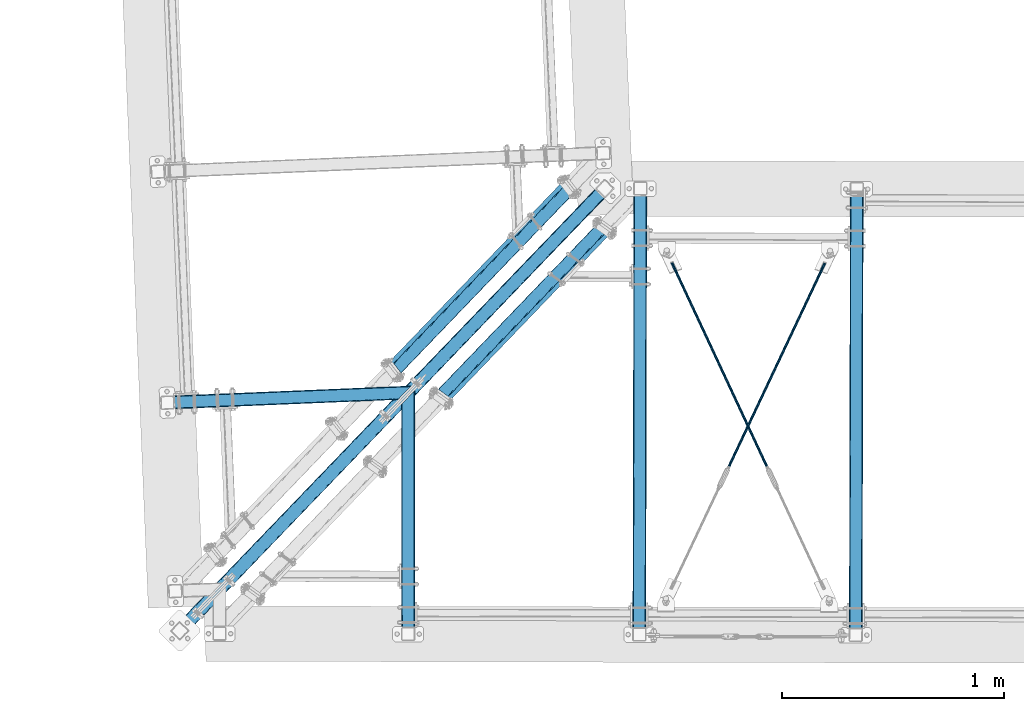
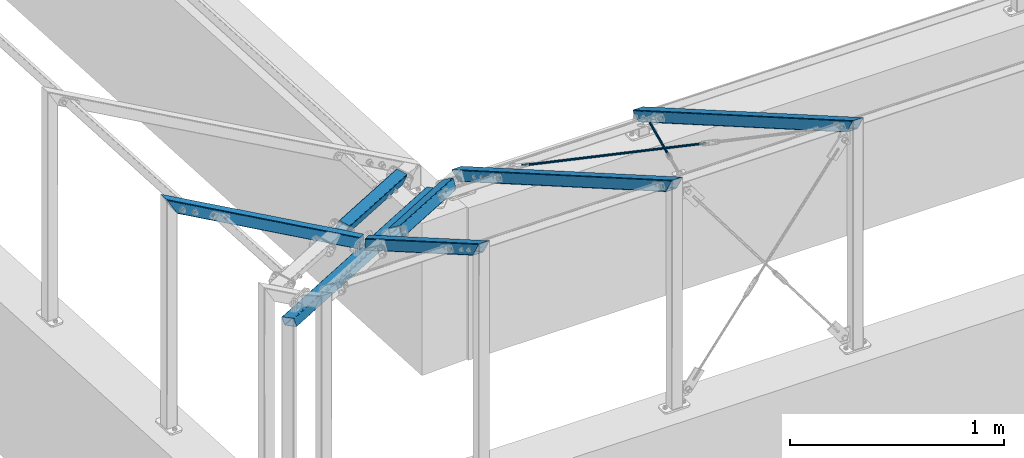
# One storey, part 10 of 288: 9 members, 56 openings.
"""IFC2X3 building model written with IfcOpenShell, lengths in millimetres."""

from ifc_helpers import new_model, entity, si_unit, converted_unit, frame, frame_2d, origin, origin_with_axes, origin_2d, origin_2d_with_axis, place, context, project, spatial, hollow_rectangle, circle, extrude, clip, halfspace, material, element, save


model = new_model("IFC2X3")

# Units and contexts
model_context = context("Model", 3, precision=1e-09, world=origin_with_axes())
ifc_project = project(units=[si_unit("LENGTHUNIT", "METRE", prefix="MILLI"), si_unit("AREAUNIT", "SQUARE_METRE"), si_unit("VOLUMEUNIT", "CUBIC_METRE"), converted_unit("PLANEANGLEUNIT", "DEGREE", entity("IfcPlaneAngleMeasure", 0.01745329), si_unit("PLANEANGLEUNIT", "RADIAN"), dimensions=[0, 0, 0, 0, 0, 0, 0])], contexts=[model_context])

# Site, building, storey
site_placement = place(None, origin_with_axes())
site = spatial("IfcSite", under=ifc_project, at=site_placement, Name="Remont ?wietlik?w nad MC w NCPP w Opolu", CompositionType="ELEMENT")
building_placement = place(site_placement, origin_with_axes())
building = spatial("IfcBuilding", under=site, at=building_placement, Name="Konstrukcja 1", CompositionType="ELEMENT")
storey_placement = place(building_placement, origin_with_axes())
storey = spatial("IfcBuildingStorey", under=building, at=storey_placement, Name="Default Storey", CompositionType="ELEMENT", Elevation=0.0)

# Member, openings
ifc_material_1 = material(Name="S235")
member_1_placement = place(None, frame((-236.729948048, 912.827571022, 1312.428468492), z_axis=(-0.865263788, -0.036088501, 0.500016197), x_axis=(-0.499581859, -0.020836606, -0.866016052)))
member_1 = element("IfcMember", 1, at=member_1_placement, inside=storey, material=ifc_material_1, Name="Horizontal_Beam", ObjectType="Horizontal_Beam", context=model_context, shape_type="Clipping", body=[
    clip(clip(extrude(hollow_rectangle(XDim=60.0, YDim=60.0, WallThickness=3.0, InnerFilletRadius=3.0, OuterFilletRadius=6.0, at=origin_2d()), origin(), (0.0, 0.0, -1.0), 1392.168412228), halfspace(frame((581.168314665, 921.899621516, -1091.490976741), z_axis=(-0.86603008, 0.0, -0.499991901), x_axis=(0.0, -1.0, 0.0)), True)), halfspace(frame((1041.8057755, 912.564403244, -820.389311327), z_axis=(0.345727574, -0.722440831, 0.598791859), x_axis=(0.361232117, 0.691432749, 0.625645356)), True)),
])
opening_1_placement = place(member_1_placement, frame((0.110116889, 30.500010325, -184.780501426), z_axis=(0.0, -1.0, -2.11e-07), x_axis=(1.9059e-05, -2.11e-07, 1.0)))
element("IfcOpeningElement", 2, at=opening_1_placement, cuts=member_1, ObjectType="Opening", context=model_context, shape_type="SweptSolid", body=[
    extrude(circle(Radius=9.001, at=frame_2d((40.0, 0.0), x_axis=(1.0, 0.0))), origin(), (0.0, 0.0, 1.0), 4.000020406),
])
opening_2_placement = place(member_1_placement, frame((0.110116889, 30.500010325, -184.780501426), z_axis=(0.0, -1.0, -2.11e-07), x_axis=(1.9059e-05, -2.11e-07, 1.0)))
element("IfcOpeningElement", 3, at=opening_2_placement, cuts=member_1, ObjectType="Opening", context=model_context, shape_type="SweptSolid", body=[
    extrude(circle(Radius=9.001, at=frame_2d((-40.0, 0.0), x_axis=(1.0, 0.0))), origin(), (0.0, 0.0, 1.0), 4.000020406),
])
opening_3_placement = place(member_1_placement, frame((0.110116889, -26.499989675, -184.780513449), z_axis=(0.0, -1.0, -2.11e-07), x_axis=(1.9059e-05, -2.11e-07, 1.0)))
element("IfcOpeningElement", 4, at=opening_3_placement, cuts=member_1, ObjectType="Opening", context=model_context, shape_type="SweptSolid", body=[
    extrude(circle(Radius=9.001, at=frame_2d((40.0, 0.0), x_axis=(1.0, 0.0))), origin(), (0.0, 0.0, 1.0), 4.000020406),
])
opening_4_placement = place(member_1_placement, frame((0.110116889, -26.499989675, -184.780513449), z_axis=(0.0, -1.0, -2.11e-07), x_axis=(1.9059e-05, -2.11e-07, 1.0)))
element("IfcOpeningElement", 5, at=opening_4_placement, cuts=member_1, ObjectType="Opening", context=model_context, shape_type="SweptSolid", body=[
    extrude(circle(Radius=9.001, at=frame_2d((-40.0, 0.0), x_axis=(1.0, 0.0))), origin(), (0.0, 0.0, 1.0), 4.000020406),
])
opening_5_placement = place(member_1_placement, frame((0.108460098, 26.499983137, -353.78153506), z_axis=(0.0, -1.0, -2.11e-07), x_axis=(1.0, 0.0, 0.0)))
element("IfcOpeningElement", 6, at=opening_5_placement, cuts=member_1, ObjectType="Opening", context=model_context, shape_type="SweptSolid", body=[
    extrude(circle(Radius=9.001, at=frame_2d((0.000171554, 9.000999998), x_axis=(1.0, 0.0))), origin(), (0.0, 0.0, -1.0), 4.000020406),
])
opening_6_placement = place(member_1_placement, frame((0.10693534, 26.500000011, -433.781535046), z_axis=(0.0, -1.0, -2.11e-07), x_axis=(1.0, 0.0, 0.0)))
element("IfcOpeningElement", 7, at=opening_6_placement, cuts=member_1, ObjectType="Opening", context=model_context, shape_type="SweptSolid", body=[
    extrude(circle(Radius=9.001, at=frame_2d((0.000171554, 9.000999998), x_axis=(1.0, 0.0))), origin(), (0.0, 0.0, -1.0), 4.000020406),
])
opening_7_placement = place(member_1_placement, frame((0.108460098, -30.500016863, -353.781547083), z_axis=(0.0, -1.0, -2.11e-07), x_axis=(1.0, 0.0, 0.0)))
element("IfcOpeningElement", 8, at=opening_7_placement, cuts=member_1, ObjectType="Opening", context=model_context, shape_type="SweptSolid", body=[
    extrude(circle(Radius=9.001, at=frame_2d((0.000171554, 9.000999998), x_axis=(1.0, 0.0))), origin(), (0.0, 0.0, -1.0), 4.000020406),
])
opening_8_placement = place(member_1_placement, frame((0.10693534, -30.499999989, -433.781547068), z_axis=(0.0, -1.0, -2.11e-07), x_axis=(1.0, 0.0, 0.0)))
element("IfcOpeningElement", 9, at=opening_8_placement, cuts=member_1, ObjectType="Opening", context=model_context, shape_type="SweptSolid", body=[
    extrude(circle(Radius=9.001, at=frame_2d((0.000171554, 9.000999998), x_axis=(1.0, 0.0))), origin(), (0.0, 0.0, -1.0), 4.000020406),
])

member_2_placement = place(None, frame((2938.290988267, -205.10931584, 1312.426370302), z_axis=(-0.001959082, -0.866023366, 0.499999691), x_axis=(-0.001130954, -0.499998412, -0.866025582)))
member_2 = element("IfcMember", 10, at=member_2_placement, inside=storey, material=ifc_material_1, Name="Horizontal_Beam", ObjectType="Horizontal_Beam", context=model_context, shape_type="Clipping", body=[
    clip(clip(extrude(hollow_rectangle(XDim=60.0, YDim=60.0, WallThickness=3.0, InnerFilletRadius=3.0, OuterFilletRadius=6.0, at=origin_2d()), origin(), (0.0, 0.0, -1.0), 2454.508604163), halfspace(frame((1461.070530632, -2938.747636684, -1561.967423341), z_axis=(-0.500000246, 0.0, 0.866025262), x_axis=(1.22e-07, 1.0, 0.0)), True)), halfspace(frame((581.169304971, -2938.747529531, -1091.469844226), z_axis=(-0.866025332, 1.05e-07, -0.500000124), x_axis=(-1.22e-07, -1.0, 0.0)), True)),
])
opening_9_placement = place(member_2_placement, frame((-0.000146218, 26.5, -151.894821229), z_axis=(0.0, -1.0, 0.0), x_axis=(1.0, 0.0, 0.0)))
element("IfcOpeningElement", 11, at=opening_9_placement, cuts=member_2, ObjectType="Opening", context=model_context, shape_type="SweptSolid", body=[
    extrude(circle(Radius=7.001, at=frame_2d((0.0, 7.001), x_axis=(1.0, 0.0))), origin(), (0.0, 0.0, -1.0), 4.0),
])
opening_10_placement = place(member_2_placement, frame((-0.000146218, 26.5, -231.894821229), z_axis=(0.0, -1.0, 0.0), x_axis=(1.0, 0.0, 0.0)))
element("IfcOpeningElement", 12, at=opening_10_placement, cuts=member_2, ObjectType="Opening", context=model_context, shape_type="SweptSolid", body=[
    extrude(circle(Radius=7.001, at=frame_2d((0.0, 7.001), x_axis=(1.0, 0.0))), origin(), (0.0, 0.0, -1.0), 4.0),
])
opening_11_placement = place(member_2_placement, frame((-0.000146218, -30.5, -151.894821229), z_axis=(0.0, -1.0, 0.0), x_axis=(1.0, 0.0, 0.0)))
element("IfcOpeningElement", 13, at=opening_11_placement, cuts=member_2, ObjectType="Opening", context=model_context, shape_type="SweptSolid", body=[
    extrude(circle(Radius=7.001, at=frame_2d((0.0, 7.001), x_axis=(1.0, 0.0))), origin(), (0.0, 0.0, -1.0), 4.0),
])
opening_12_placement = place(member_2_placement, frame((-0.000146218, -30.5, -231.894821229), z_axis=(0.0, -1.0, 0.0), x_axis=(1.0, 0.0, 0.0)))
element("IfcOpeningElement", 14, at=opening_12_placement, cuts=member_2, ObjectType="Opening", context=model_context, shape_type="SweptSolid", body=[
    extrude(circle(Radius=7.001, at=frame_2d((0.0, 7.001), x_axis=(1.0, 0.0))), origin(), (0.0, 0.0, -1.0), 4.0),
])
opening_13_placement = place(member_2_placement, frame((-0.000146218, 26.5, -2315.204967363), z_axis=(0.0, -1.0, 0.0), x_axis=(1.0, 0.0, 0.0)))
element("IfcOpeningElement", 15, at=opening_13_placement, cuts=member_2, ObjectType="Opening", context=model_context, shape_type="SweptSolid", body=[
    extrude(circle(Radius=7.001, at=frame_2d((0.0, 7.001), x_axis=(1.0, 0.0))), origin(), (0.0, 0.0, -1.0), 4.0),
])
opening_14_placement = place(member_2_placement, frame((-0.000146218, 26.5, -2395.204967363), z_axis=(0.0, -1.0, 0.0), x_axis=(1.0, 0.0, 0.0)))
element("IfcOpeningElement", 16, at=opening_14_placement, cuts=member_2, ObjectType="Opening", context=model_context, shape_type="SweptSolid", body=[
    extrude(circle(Radius=7.001, at=frame_2d((0.0, 7.001), x_axis=(1.0, 0.0))), origin(), (0.0, 0.0, -1.0), 4.0),
])
opening_15_placement = place(member_2_placement, frame((-0.000146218, -30.5, -2315.204967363), z_axis=(0.0, -1.0, 0.0), x_axis=(1.0, 0.0, 0.0)))
element("IfcOpeningElement", 17, at=opening_15_placement, cuts=member_2, ObjectType="Opening", context=model_context, shape_type="SweptSolid", body=[
    extrude(circle(Radius=7.001, at=frame_2d((0.0, 7.001), x_axis=(1.0, 0.0))), origin(), (0.0, 0.0, -1.0), 4.0),
])
opening_16_placement = place(member_2_placement, frame((-0.000146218, -30.5, -2395.204967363), z_axis=(0.0, -1.0, 0.0), x_axis=(1.0, 0.0, 0.0)))
element("IfcOpeningElement", 18, at=opening_16_placement, cuts=member_2, ObjectType="Opening", context=model_context, shape_type="SweptSolid", body=[
    extrude(circle(Radius=7.001, at=frame_2d((0.0, 7.001), x_axis=(1.0, 0.0))), origin(), (0.0, 0.0, -1.0), 4.0),
])
opening_17_placement = place(member_2_placement, frame((-0.000146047, 26.5, -2115.252833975), z_axis=(0.0, -1.0, 0.0), x_axis=(1.0, 0.0, 0.0)))
element("IfcOpeningElement", 19, at=opening_17_placement, cuts=member_2, ObjectType="Opening", context=model_context, shape_type="SweptSolid", body=[
    extrude(circle(Radius=7.001, at=frame_2d((0.0, 7.001), x_axis=(1.0, 0.0))), origin(), (0.0, 0.0, -1.0), 4.0),
])
opening_18_placement = place(member_2_placement, frame((-0.000146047, 26.5, -2195.252833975), z_axis=(0.0, -1.0, 0.0), x_axis=(1.0, 0.0, 0.0)))
element("IfcOpeningElement", 20, at=opening_18_placement, cuts=member_2, ObjectType="Opening", context=model_context, shape_type="SweptSolid", body=[
    extrude(circle(Radius=7.001, at=frame_2d((0.0, 7.001), x_axis=(1.0, 0.0))), origin(), (0.0, 0.0, -1.0), 4.0),
])
opening_19_placement = place(member_2_placement, frame((-0.000146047, -30.5, -2115.252833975), z_axis=(0.0, -1.0, 0.0), x_axis=(1.0, 0.0, 0.0)))
element("IfcOpeningElement", 21, at=opening_19_placement, cuts=member_2, ObjectType="Opening", context=model_context, shape_type="SweptSolid", body=[
    extrude(circle(Radius=7.001, at=frame_2d((0.0, 7.001), x_axis=(1.0, 0.0))), origin(), (0.0, 0.0, -1.0), 4.0),
])
opening_20_placement = place(member_2_placement, frame((-0.000146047, -30.5, -2195.252833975), z_axis=(0.0, -1.0, 0.0), x_axis=(1.0, 0.0, 0.0)))
element("IfcOpeningElement", 22, at=opening_20_placement, cuts=member_2, ObjectType="Opening", context=model_context, shape_type="SweptSolid", body=[
    extrude(circle(Radius=7.001, at=frame_2d((0.0, 7.001), x_axis=(1.0, 0.0))), origin(), (0.0, 0.0, -1.0), 4.0),
])

member_3_placement = place(None, frame((921.615527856, -200.562713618, 1312.426372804), z_axis=(0.0, -0.866025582, 0.499999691), x_axis=(0.0, -0.499999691, -0.866025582)))
member_3 = element("IfcMember", 23, at=member_3_placement, inside=storey, material=ifc_material_1, Name="Horizontal_Beam", ObjectType="Horizontal_Beam", context=model_context, shape_type="Clipping", body=[
    clip(clip(extrude(hollow_rectangle(XDim=60.0, YDim=60.0, WallThickness=3.0, InnerFilletRadius=3.0, OuterFilletRadius=6.0, at=origin_2d()), origin(), (0.0, 0.0, -1.0), 1391.388840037), halfspace(frame((581.694813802, -921.615527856, -1092.379519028), z_axis=(-0.86602535, 0.0, -0.500000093), x_axis=(0.0, -1.0, 0.0)), True)), halfspace(frame((1040.845813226, -912.185502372, -822.0550507), z_axis=(0.346499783, 0.72093759, 0.600155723), x_axis=(-0.360468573, 0.692999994, -0.624350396)), True)),
])
opening_21_placement = place(member_3_placement, frame((0.034118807, 30.591172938, -384.895866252), z_axis=(-0.001130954, -0.999997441, -0.001959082), x_axis=(-1.108e-06, -0.001959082, 0.999998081)))
element("IfcOpeningElement", 24, at=opening_21_placement, cuts=member_3, ObjectType="Opening", context=model_context, shape_type="SweptSolid", body=[
    extrude(circle(Radius=7.001, at=frame_2d((40.0, 0.0), x_axis=(1.0, 0.0))), origin(), (0.0, 0.0, 1.0), 4.028653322),
])
opening_22_placement = place(member_3_placement, frame((0.034118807, 30.591172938, -384.895866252), z_axis=(-0.001130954, -0.999997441, -0.001959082), x_axis=(-1.108e-06, -0.001959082, 0.999998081)))
element("IfcOpeningElement", 25, at=opening_22_placement, cuts=member_3, ObjectType="Opening", context=model_context, shape_type="SweptSolid", body=[
    extrude(circle(Radius=7.001, at=frame_2d((-40.0, 0.0), x_axis=(1.0, 0.0))), origin(), (0.0, 0.0, 1.0), 4.028653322),
])
opening_23_placement = place(member_3_placement, frame((0.034118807, 30.591172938, -384.895866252), z_axis=(-0.001130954, -0.999997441, -0.001959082), x_axis=(-1.108e-06, -0.001959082, 0.999998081)))
element("IfcOpeningElement", 26, at=opening_23_placement, cuts=member_3, ObjectType="Opening", context=model_context, shape_type="SweptSolid", body=[
    extrude(circle(Radius=7.001, at=frame_2d((40.0, 0.0), x_axis=(1.0, 0.0))), origin(), (0.0, 0.0, 1.0), 4.185380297),
])
opening_24_placement = place(member_3_placement, frame((0.034118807, 30.591172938, -384.895866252), z_axis=(-0.001130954, -0.999997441, -0.001959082), x_axis=(-1.108e-06, -0.001959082, 0.999998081)))
element("IfcOpeningElement", 27, at=opening_24_placement, cuts=member_3, ObjectType="Opening", context=model_context, shape_type="SweptSolid", body=[
    extrude(circle(Radius=7.001, at=frame_2d((-40.0, 0.0), x_axis=(1.0, 0.0))), origin(), (0.0, 0.0, 1.0), 4.185380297),
])
opening_25_placement = place(member_3_placement, frame((-0.030345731, -26.408827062, -385.007534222), z_axis=(-0.001130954, -0.999997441, -0.001959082), x_axis=(-1.108e-06, -0.001959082, 0.999998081)))
element("IfcOpeningElement", 28, at=opening_25_placement, cuts=member_3, ObjectType="Opening", context=model_context, shape_type="SweptSolid", body=[
    extrude(circle(Radius=7.001, at=frame_2d((40.0, 0.0), x_axis=(1.0, 0.0))), origin(), (0.0, 0.0, 1.0), 4.028653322),
])
opening_26_placement = place(member_3_placement, frame((-0.030345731, -26.408827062, -385.007534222), z_axis=(-0.001130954, -0.999997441, -0.001959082), x_axis=(-1.108e-06, -0.001959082, 0.999998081)))
element("IfcOpeningElement", 29, at=opening_26_placement, cuts=member_3, ObjectType="Opening", context=model_context, shape_type="SweptSolid", body=[
    extrude(circle(Radius=7.001, at=frame_2d((-40.0, 0.0), x_axis=(1.0, 0.0))), origin(), (0.0, 0.0, 1.0), 4.028653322),
])
opening_27_placement = place(member_3_placement, frame((-0.030345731, -26.408827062, -385.007534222), z_axis=(-0.001130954, -0.999997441, -0.001959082), x_axis=(-1.108e-06, -0.001959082, 0.999998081)))
element("IfcOpeningElement", 30, at=opening_27_placement, cuts=member_3, ObjectType="Opening", context=model_context, shape_type="SweptSolid", body=[
    extrude(circle(Radius=7.001, at=frame_2d((40.0, 0.0), x_axis=(1.0, 0.0))), origin(), (0.0, 0.0, 1.0), 4.185380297),
])
opening_28_placement = place(member_3_placement, frame((-0.030345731, -26.408827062, -385.007534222), z_axis=(-0.001130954, -0.999997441, -0.001959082), x_axis=(-1.108e-06, -0.001959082, 0.999998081)))
element("IfcOpeningElement", 31, at=opening_28_placement, cuts=member_3, ObjectType="Opening", context=model_context, shape_type="SweptSolid", body=[
    extrude(circle(Radius=7.001, at=frame_2d((-40.0, 0.0), x_axis=(1.0, 0.0))), origin(), (0.0, 0.0, 1.0), 4.185380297),
])
opening_29_placement = place(member_3_placement, frame((0.029573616, 26.34417931, -151.856872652), z_axis=(-0.001130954, -0.999997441, -0.001959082), x_axis=(0.99999936, -0.001130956, 0.0)))
element("IfcOpeningElement", 32, at=opening_29_placement, cuts=member_3, ObjectType="Opening", context=model_context, shape_type="SweptSolid", body=[
    extrude(circle(Radius=7.001, at=frame_2d((7.755e-06, 7.001), x_axis=(1.0, 0.0))), origin(), (0.0, 0.0, -1.0), 4.185380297),
])
opening_30_placement = place(member_3_placement, frame((0.029662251, 26.500905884, -231.856719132), z_axis=(-0.001130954, -0.999997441, -0.001959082), x_axis=(0.99999936, -0.001130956, 0.0)))
element("IfcOpeningElement", 33, at=opening_30_placement, cuts=member_3, ObjectType="Opening", context=model_context, shape_type="SweptSolid", body=[
    extrude(circle(Radius=7.001, at=frame_2d((7.755e-06, 7.001), x_axis=(1.0, 0.0))), origin(), (0.0, 0.0, -1.0), 4.185380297),
])
opening_31_placement = place(member_3_placement, frame((0.029573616, 26.34417931, -151.856872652), z_axis=(-0.001130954, -0.999997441, -0.001959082), x_axis=(0.99999936, -0.001130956, 0.0)))
element("IfcOpeningElement", 34, at=opening_31_placement, cuts=member_3, ObjectType="Opening", context=model_context, shape_type="SweptSolid", body=[
    extrude(circle(Radius=7.001, at=frame_2d((7.755e-06, 7.001), x_axis=(1.0, 0.0))), origin(), (0.0, 0.0, -1.0), 4.028653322),
])
opening_32_placement = place(member_3_placement, frame((0.029662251, 26.500905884, -231.856719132), z_axis=(-0.001130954, -0.999997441, -0.001959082), x_axis=(0.99999936, -0.001130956, 0.0)))
element("IfcOpeningElement", 35, at=opening_32_placement, cuts=member_3, ObjectType="Opening", context=model_context, shape_type="SweptSolid", body=[
    extrude(circle(Radius=7.001, at=frame_2d((7.755e-06, 7.001), x_axis=(1.0, 0.0))), origin(), (0.0, 0.0, -1.0), 4.028653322),
])
opening_33_placement = place(member_3_placement, frame((-0.034890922, -30.65582069, -151.968540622), z_axis=(-0.001130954, -0.999997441, -0.001959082), x_axis=(0.99999936, -0.001130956, 0.0)))
element("IfcOpeningElement", 36, at=opening_33_placement, cuts=member_3, ObjectType="Opening", context=model_context, shape_type="SweptSolid", body=[
    extrude(circle(Radius=7.001, at=frame_2d((7.755e-06, 7.001), x_axis=(1.0, 0.0))), origin(), (0.0, 0.0, -1.0), 4.185380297),
])
opening_34_placement = place(member_3_placement, frame((-0.034802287, -30.499094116, -231.968387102), z_axis=(-0.001130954, -0.999997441, -0.001959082), x_axis=(0.99999936, -0.001130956, 0.0)))
element("IfcOpeningElement", 37, at=opening_34_placement, cuts=member_3, ObjectType="Opening", context=model_context, shape_type="SweptSolid", body=[
    extrude(circle(Radius=7.001, at=frame_2d((7.755e-06, 7.001), x_axis=(1.0, 0.0))), origin(), (0.0, 0.0, -1.0), 4.185380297),
])
opening_35_placement = place(member_3_placement, frame((-0.034890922, -30.65582069, -151.968540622), z_axis=(-0.001130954, -0.999997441, -0.001959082), x_axis=(0.99999936, -0.001130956, 0.0)))
element("IfcOpeningElement", 38, at=opening_35_placement, cuts=member_3, ObjectType="Opening", context=model_context, shape_type="SweptSolid", body=[
    extrude(circle(Radius=7.001, at=frame_2d((7.755e-06, 7.001), x_axis=(1.0, 0.0))), origin(), (0.0, 0.0, -1.0), 4.028653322),
])
opening_36_placement = place(member_3_placement, frame((-0.034802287, -30.499094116, -231.968387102), z_axis=(-0.001130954, -0.999997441, -0.001959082), x_axis=(0.99999936, -0.001130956, 0.0)))
element("IfcOpeningElement", 39, at=opening_36_placement, cuts=member_3, ObjectType="Opening", context=model_context, shape_type="SweptSolid", body=[
    extrude(circle(Radius=7.001, at=frame_2d((7.755e-06, 7.001), x_axis=(1.0, 0.0))), origin(), (0.0, 0.0, -1.0), 4.028653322),
])

member_4_placement = place(None, frame((1962.923452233, -202.811043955, 1312.426370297), z_axis=(-0.001959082, -0.866023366, 0.499999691), x_axis=(-0.001130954, -0.499998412, -0.866025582)))
member_4 = element("IfcMember", 40, at=member_4_placement, inside=storey, material=ifc_material_1, Name="Horizontal_Beam", ObjectType="Horizontal_Beam", context=model_context, shape_type="Clipping", body=[
    clip(clip(extrude(hollow_rectangle(XDim=60.0, YDim=60.0, WallThickness=3.0, InnerFilletRadius=3.0, OuterFilletRadius=6.0, at=origin_2d()), origin(), (0.0, 0.0, -1.0), 2454.508604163), halfspace(frame((581.146464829, -1963.377290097, -1091.430078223), z_axis=(-0.866025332, 1.05e-07, -0.500000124), x_axis=(-1.22e-07, -1.0, 0.0)), True)), halfspace(frame((1461.139526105, -1963.37739726, -1561.927657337), z_axis=(-0.500000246, 0.0, 0.866025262), x_axis=(1.22e-07, 1.0, 0.0)), True)),
])
opening_37_placement = place(member_4_placement, frame((0.053524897, 30.5, -1948.1588494), z_axis=(0.0, -1.0, 0.0), x_axis=(0.0, 0.0, 1.0)))
element("IfcOpeningElement", 41, at=opening_37_placement, cuts=member_4, ObjectType="Opening", context=model_context, shape_type="SweptSolid", body=[
    extrude(circle(Radius=7.001, at=frame_2d((40.0, 0.0), x_axis=(1.0, 0.0))), origin(), (0.0, 0.0, 1.0), 4.0),
])
opening_38_placement = place(member_4_placement, frame((0.053524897, 30.5, -1948.1588494), z_axis=(0.0, -1.0, 0.0), x_axis=(0.0, 0.0, 1.0)))
element("IfcOpeningElement", 42, at=opening_38_placement, cuts=member_4, ObjectType="Opening", context=model_context, shape_type="SweptSolid", body=[
    extrude(circle(Radius=7.001, at=frame_2d((-40.0, 0.0), x_axis=(1.0, 0.0))), origin(), (0.0, 0.0, 1.0), 4.0),
])
opening_39_placement = place(member_4_placement, frame((0.053524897, -26.5, -1948.1588494), z_axis=(0.0, -1.0, 0.0), x_axis=(0.0, 0.0, 1.0)))
element("IfcOpeningElement", 43, at=opening_39_placement, cuts=member_4, ObjectType="Opening", context=model_context, shape_type="SweptSolid", body=[
    extrude(circle(Radius=7.001, at=frame_2d((40.0, 0.0), x_axis=(1.0, 0.0))), origin(), (0.0, 0.0, 1.0), 4.0),
])
opening_40_placement = place(member_4_placement, frame((0.053524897, -26.5, -1948.1588494), z_axis=(0.0, -1.0, 0.0), x_axis=(0.0, 0.0, 1.0)))
element("IfcOpeningElement", 44, at=opening_40_placement, cuts=member_4, ObjectType="Opening", context=model_context, shape_type="SweptSolid", body=[
    extrude(circle(Radius=7.001, at=frame_2d((-40.0, 0.0), x_axis=(1.0, 0.0))), origin(), (0.0, 0.0, 1.0), 4.0),
])
opening_41_placement = place(member_4_placement, frame((-0.000146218, 30.5, -184.814289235), z_axis=(0.0, -1.0, 0.0), x_axis=(0.0, 0.0, 1.0)))
element("IfcOpeningElement", 45, at=opening_41_placement, cuts=member_4, ObjectType="Opening", context=model_context, shape_type="SweptSolid", body=[
    extrude(circle(Radius=7.001, at=frame_2d((40.0, 0.0), x_axis=(1.0, 0.0))), origin(), (0.0, 0.0, 1.0), 4.0),
])
opening_42_placement = place(member_4_placement, frame((-0.000146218, 30.5, -184.814289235), z_axis=(0.0, -1.0, 0.0), x_axis=(0.0, 0.0, 1.0)))
element("IfcOpeningElement", 46, at=opening_42_placement, cuts=member_4, ObjectType="Opening", context=model_context, shape_type="SweptSolid", body=[
    extrude(circle(Radius=7.001, at=frame_2d((-40.0, 0.0), x_axis=(1.0, 0.0))), origin(), (0.0, 0.0, 1.0), 4.0),
])
opening_43_placement = place(member_4_placement, frame((-0.000146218, -26.5, -184.814289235), z_axis=(0.0, -1.0, 0.0), x_axis=(0.0, 0.0, 1.0)))
element("IfcOpeningElement", 47, at=opening_43_placement, cuts=member_4, ObjectType="Opening", context=model_context, shape_type="SweptSolid", body=[
    extrude(circle(Radius=7.001, at=frame_2d((40.0, 0.0), x_axis=(1.0, 0.0))), origin(), (0.0, 0.0, 1.0), 4.0),
])
opening_44_placement = place(member_4_placement, frame((-0.000146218, -26.5, -184.814289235), z_axis=(0.0, -1.0, 0.0), x_axis=(0.0, 0.0, 1.0)))
element("IfcOpeningElement", 48, at=opening_44_placement, cuts=member_4, ObjectType="Opening", context=model_context, shape_type="SweptSolid", body=[
    extrude(circle(Radius=7.001, at=frame_2d((-40.0, 0.0), x_axis=(1.0, 0.0))), origin(), (0.0, 0.0, 1.0), 4.0),
])
opening_45_placement = place(member_4_placement, frame((0.053524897, 30.5, -2148.1588494), z_axis=(0.0, -1.0, 0.0), x_axis=(0.0, 0.0, 1.0)))
element("IfcOpeningElement", 49, at=opening_45_placement, cuts=member_4, ObjectType="Opening", context=model_context, shape_type="SweptSolid", body=[
    extrude(circle(Radius=7.001, at=frame_2d((40.0, 0.0), x_axis=(1.0, 0.0))), origin(), (0.0, 0.0, 1.0), 4.0),
])
opening_46_placement = place(member_4_placement, frame((0.053524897, 30.5, -2148.1588494), z_axis=(0.0, -1.0, 0.0), x_axis=(0.0, 0.0, 1.0)))
element("IfcOpeningElement", 50, at=opening_46_placement, cuts=member_4, ObjectType="Opening", context=model_context, shape_type="SweptSolid", body=[
    extrude(circle(Radius=7.001, at=frame_2d((-40.0, 0.0), x_axis=(1.0, 0.0))), origin(), (0.0, 0.0, 1.0), 4.0),
])
opening_47_placement = place(member_4_placement, frame((0.053524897, -26.5, -2148.1588494), z_axis=(0.0, -1.0, 0.0), x_axis=(0.0, 0.0, 1.0)))
element("IfcOpeningElement", 51, at=opening_47_placement, cuts=member_4, ObjectType="Opening", context=model_context, shape_type="SweptSolid", body=[
    extrude(circle(Radius=7.001, at=frame_2d((40.0, 0.0), x_axis=(1.0, 0.0))), origin(), (0.0, 0.0, 1.0), 4.0),
])
opening_48_placement = place(member_4_placement, frame((0.053524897, -26.5, -2148.1588494), z_axis=(0.0, -1.0, 0.0), x_axis=(0.0, 0.0, 1.0)))
element("IfcOpeningElement", 52, at=opening_48_placement, cuts=member_4, ObjectType="Opening", context=model_context, shape_type="SweptSolid", body=[
    extrude(circle(Radius=7.001, at=frame_2d((-40.0, 0.0), x_axis=(1.0, 0.0))), origin(), (0.0, 0.0, 1.0), 4.0),
])

member_5_placement = place(None, frame((1024.30386837, 888.92362624, 683.411658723), z_axis=(-0.639790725, -0.665583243, 0.384274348), x_axis=(0.0, 0.499999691, 0.866025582)))
member_5 = element("IfcMember", 53, at=member_5_placement, inside=storey, material=ifc_material_1, Name="-", ObjectType="-", context=model_context, shape_type="Clipping", body=[
    clip(clip(extrude(hollow_rectangle(XDim=60.0, YDim=60.0, WallThickness=3.0, InnerFilletRadius=3.0, OuterFilletRadius=6.0, at=origin_2d()), origin(), (0.0, 0.0, -1.0), 1293.698233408), halfspace(frame((-1036.313518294, 513.317496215, -1208.770826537), z_axis=(0.0, 0.0, 1.0), x_axis=(-0.346499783, -0.938050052, 0.0)), True)), halfspace(frame((-1036.313518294, 513.317496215, -84.927406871), z_axis=(0.0, 0.0, -1.0), x_axis=(0.346499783, 0.938050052, 0.0)), True)),
])
opening_49_placement = place(member_5_placement, frame((-0.883151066, 30.5, -1014.676408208), z_axis=(0.0, -1.0, 0.0), x_axis=(-0.000720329, 0.0, -0.999999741)))
element("IfcOpeningElement", 54, at=opening_49_placement, cuts=member_5, ObjectType="Opening", context=model_context, shape_type="SweptSolid", body=[
    extrude(circle(Radius=7.001, at=origin_2d_with_axis()), origin(), (0.0, 0.0, 1.0), 4.0),
])
opening_50_placement = place(member_5_placement, frame((-0.883151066, -26.5, -1014.676408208), z_axis=(0.0, -1.0, 0.0), x_axis=(-0.000720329, 0.0, -0.999999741)))
element("IfcOpeningElement", 55, at=opening_50_placement, cuts=member_5, ObjectType="Opening", context=model_context, shape_type="SweptSolid", body=[
    extrude(circle(Radius=7.001, at=origin_2d_with_axis()), origin(), (0.0, 0.0, 1.0), 4.0),
])
opening_51_placement = place(member_5_placement, frame((-0.788095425, 30.5, -882.714954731), z_axis=(0.0, -1.0, 0.0), x_axis=(-0.000720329, 0.0, -0.999999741)))
element("IfcOpeningElement", 56, at=opening_51_placement, cuts=member_5, ObjectType="Opening", context=model_context, shape_type="SweptSolid", body=[
    extrude(circle(Radius=7.001, at=origin_2d_with_axis()), origin(), (0.0, 0.0, 1.0), 4.0),
])
opening_52_placement = place(member_5_placement, frame((-0.788095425, -26.5, -882.714954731), z_axis=(0.0, -1.0, 0.0), x_axis=(-0.000720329, 0.0, -0.999999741)))
element("IfcOpeningElement", 57, at=opening_52_placement, cuts=member_5, ObjectType="Opening", context=model_context, shape_type="SweptSolid", body=[
    extrude(circle(Radius=7.001, at=origin_2d_with_axis()), origin(), (0.0, 0.0, 1.0), 4.0),
])

member_6_placement = place(None, frame((1690.917415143, 1935.277097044, 175.819016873), z_axis=(0.639589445, 0.665373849, -0.384971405), x_axis=(0.499581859, 0.020836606, 0.866016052)))
member_6 = element("IfcMember", 58, at=member_6_placement, inside=storey, material=ifc_material_1, Name="Horizontal_Beam", ObjectType="Horizontal_Beam", context=model_context, shape_type="Clipping", body=[
    clip(clip(extrude(hollow_rectangle(XDim=60.0, YDim=60.0, WallThickness=3.0, InnerFilletRadius=3.0, OuterFilletRadius=6.0, at=origin_2d()), origin(), (0.0, 0.0, -1.0), 1386.564184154), halfspace(frame((-1037.338361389, 512.330457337, -1301.636777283), z_axis=(0.0, 0.0, 1.0), x_axis=(-0.345727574, -0.938334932, 0.0)), True)), halfspace(frame((-1037.338361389, 512.330457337, -84.927406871), z_axis=(0.0, 0.0, -1.0), x_axis=(0.345727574, 0.938334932, 0.0)), True)),
])
opening_53_placement = place(member_6_placement, frame((-3.135056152, 30.5, -439.140185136), z_axis=(0.0, -1.0, 0.0), x_axis=(-2.4755e-05, 0.0, -1.0)))
element("IfcOpeningElement", 59, at=opening_53_placement, cuts=member_6, ObjectType="Opening", context=model_context, shape_type="SweptSolid", body=[
    extrude(circle(Radius=7.001, at=origin_2d_with_axis()), origin(), (0.0, 0.0, 1.0), 4.0),
])
opening_54_placement = place(member_6_placement, frame((-3.135056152, -26.5, -439.140185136), z_axis=(0.0, -1.0, 0.0), x_axis=(-2.4755e-05, 0.0, -1.0)))
element("IfcOpeningElement", 60, at=opening_54_placement, cuts=member_6, ObjectType="Opening", context=model_context, shape_type="SweptSolid", body=[
    extrude(circle(Radius=7.001, at=origin_2d_with_axis()), origin(), (0.0, 0.0, 1.0), 4.0),
])
opening_55_placement = place(member_6_placement, frame((-3.131684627, 30.5, -307.186399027), z_axis=(0.0, -1.0, 0.0), x_axis=(-2.4755e-05, 0.0, -1.0)))
element("IfcOpeningElement", 61, at=opening_55_placement, cuts=member_6, ObjectType="Opening", context=model_context, shape_type="SweptSolid", body=[
    extrude(circle(Radius=7.001, at=origin_2d_with_axis()), origin(), (0.0, 0.0, 1.0), 4.0),
])
opening_56_placement = place(member_6_placement, frame((-3.131684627, -26.5, -307.186399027), z_axis=(0.0, -1.0, 0.0), x_axis=(-2.4755e-05, 0.0, -1.0)))
element("IfcOpeningElement", 62, at=opening_56_placement, cuts=member_6, ObjectType="Opening", context=model_context, shape_type="SweptSolid", body=[
    extrude(circle(Radius=7.001, at=origin_2d_with_axis()), origin(), (0.0, 0.0, 1.0), 4.0),
])

# Members
ifc_material_2 = material(Name="S275J2")
member_7_placement = place(None, frame((2338.932519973, 568.652176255, 875.714183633), z_axis=(-0.378100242, -0.801523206, 0.46325021), x_axis=(0.001127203, 0.499998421, 0.866025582)))
element("IfcMember", 63, at=member_7_placement, inside=storey, material=ifc_material_2, Name="Tension_Rod#2", ObjectType="Tension_Rod#2", context=model_context, shape_type="Clipping", body=[
    clip(clip(extrude(circle(Radius=6.0, at=origin_2d()), origin(), (0.0, 0.0, -1.0), 1347.850591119), halfspace(frame((-1045.352527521, 2143.562671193, -33.486281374), z_axis=(0.0, 0.0, -1.0), x_axis=(0.212299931, 0.977204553, 0.0)), True)), halfspace(frame((-1045.352527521, 2143.562671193, -1219.364309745), z_axis=(0.0, 0.0, 1.0), x_axis=(-0.212299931, -0.977204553, 0.0)), True)),
])
member_8_placement = place(None, frame((2565.776242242, 568.139459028, 875.714944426), z_axis=(0.374470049, -0.803224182, 0.463252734), x_axis=(-0.001127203, -0.499998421, -0.866025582)))
element("IfcMember", 64, at=member_8_placement, inside=storey, material=ifc_material_2, Name="Tension_Rod#2", ObjectType="Tension_Rod#2", context=model_context, shape_type="Clipping", body=[
    clip(clip(extrude(circle(Radius=6.0, at=origin_2d()), origin(), (0.0, 0.0, -1.0), 1347.850591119), halfspace(frame((1045.352527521, -2398.280525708, -33.486281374), z_axis=(0.0, 0.0, -1.0), x_axis=(0.212293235, -0.977206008, 0.0)), True)), halfspace(frame((1045.352527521, -2398.280525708, -1219.364309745), z_axis=(0.0, 0.0, 1.0), x_axis=(-0.212293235, 0.977206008, 0.0)), True)),
])
member_9_placement = place(None, frame((-347.072063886, -361.169236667, 1343.911399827), z_axis=(-0.639589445, -0.665373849, 0.384971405), x_axis=(0.72093759, -0.692999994, 0.0)))
element("IfcMember", 65, at=member_9_placement, inside=storey, material=ifc_material_1, Name="-", ObjectType="-", context=model_context, shape_type="Clipping", body=[
    clip(clip(extrude(hollow_rectangle(XDim=60.0, YDim=60.0, WallThickness=3.0, InnerFilletRadius=3.0, OuterFilletRadius=6.0, at=origin_2d()), origin(), (0.0, 0.0, -1.0), 3588.378878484), halfspace(frame((-0.072994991, -1828.092233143, -2150.977569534), z_axis=(0.0, 0.554559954, 0.832143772), x_axis=(1.0, 0.0, 0.0)), True)), halfspace(frame((-0.072981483, -601.661057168, -1276.759413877), z_axis=(0.0, 0.832163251, -0.554530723), x_axis=(-1.0, 0.0, 0.0)), True)),
])

save(model, "model.ifc")
